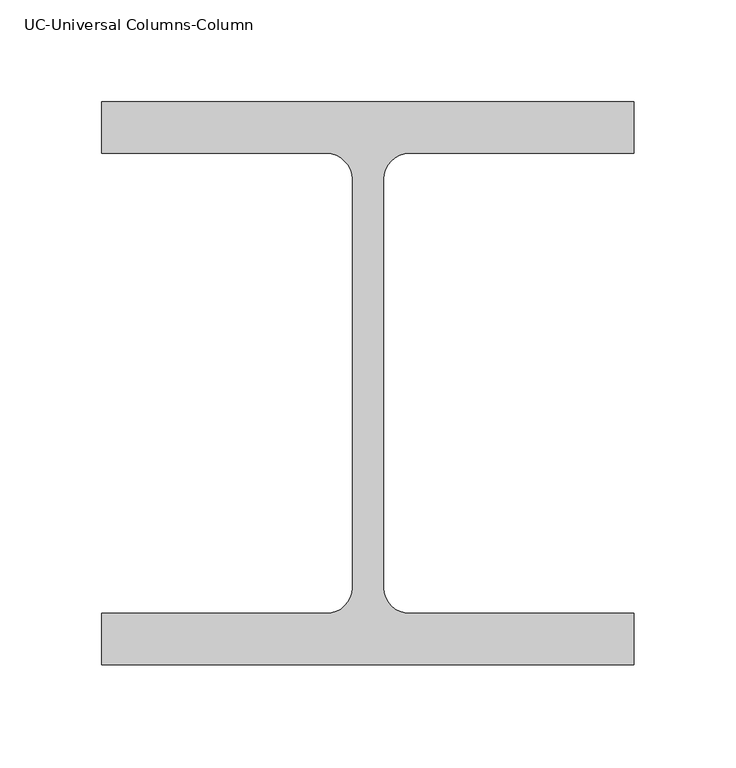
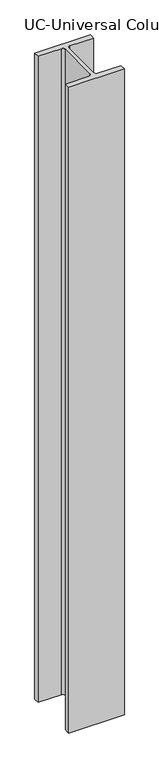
"""IFC4 building model written with IfcOpenShell, lengths in millimetres: column geometry."""

from ifc_helpers import new_model, si_unit, point, frame, frame_2d, origin, place, context, project, spatial, polyline, circle_curve, trimmed, segment, composite_curve, outline, extrude, source, transform, mapped, element, save


def uc_universal_columns_column_67913ea7(model_context):
    return source(origin(), model_context, "Body", "SweptSolid", [
        extrude(outline(composite_curve([segment(polyline([(130.65, 138.15), (130.65, 112.85), (20.35, 112.85)]), True, "CONTINUOUS"), segment(trimmed(circle_curve(frame_2d((20.35, 100.15)), 12.7), [point((20.35, 112.85))], [point((7.65, 100.15))], True, "CARTESIAN"), True, "CONTINUOUS"), segment(polyline([(7.65, 100.15), (7.65, -100.15)]), True, "CONTINUOUS"), segment(trimmed(circle_curve(frame_2d((20.35, -100.15)), 12.7), [point((7.65, -100.15))], [point((20.35, -112.85))], True, "CARTESIAN"), True, "CONTINUOUS"), segment(polyline([(20.35, -112.85), (130.65, -112.85), (130.65, -138.15), (-130.65, -138.15), (-130.65, -112.85), (-20.35, -112.85)]), True, "CONTINUOUS"), segment(trimmed(circle_curve(frame_2d((-20.35, -100.15)), 12.7), [point((-20.35, -112.85))], [point((-7.65, -100.15))], True, "CARTESIAN"), True, "CONTINUOUS"), segment(polyline([(-7.65, -100.15), (-7.65, 100.15)]), True, "CONTINUOUS"), segment(trimmed(circle_curve(frame_2d((-20.35, 100.15)), 12.7), [point((-7.65, 100.15))], [point((-20.35, 112.85))], True, "CARTESIAN"), True, "CONTINUOUS"), segment(polyline([(-20.35, 112.85), (-130.65, 112.85), (-130.65, 138.15), (130.65, 138.15)]), True, "CONTINUOUS")], self_intersect=False)), frame((0.0, 0.0, 8495.0), z_axis=(0.0, 0.0, 1.0), x_axis=(1.0, 0.0, 0.0)), (0.0, 0.0, 1.0), 3205.0),
    ])


if __name__ == "__main__":
    model = new_model("IFC4")
    model_context = context("Model", 3, world=origin())
    ifc_project = project(units=[si_unit("LENGTHUNIT", "METRE", prefix="MILLI")], contexts=[model_context])
    site = spatial("IfcSite", under=ifc_project)
    building = spatial("IfcBuilding", under=site)
    placement = place(None, origin())
    uc_universal_columns_column_shape = uc_universal_columns_column_67913ea7(model_context)
    element("IfcColumn", 1, ObjectType="UC-Universal Columns-Column : UC 10\" x 10\" x 5 1/2\"", at=placement, inside=building, context=model_context, shape_type="MappedRepresentation", body=[
        mapped(uc_universal_columns_column_shape, transform((0.0, 0.0, 0.0), x_axis=(1.0, 0.0, 0.0), y_axis=(0.0, 1.0, 0.0), z_axis=(0.0, 0.0, 1.0))),
    ])
    save(model, "model.ifc")
